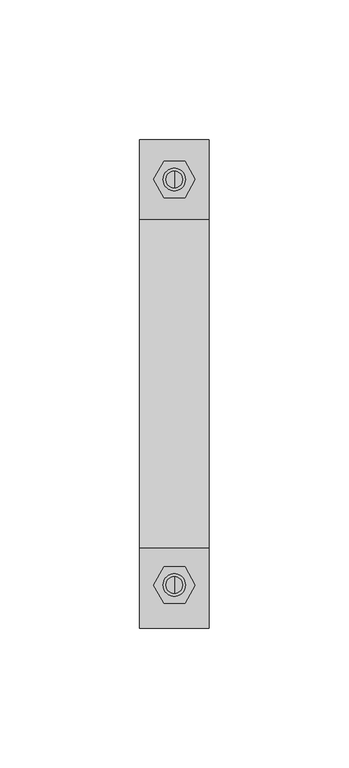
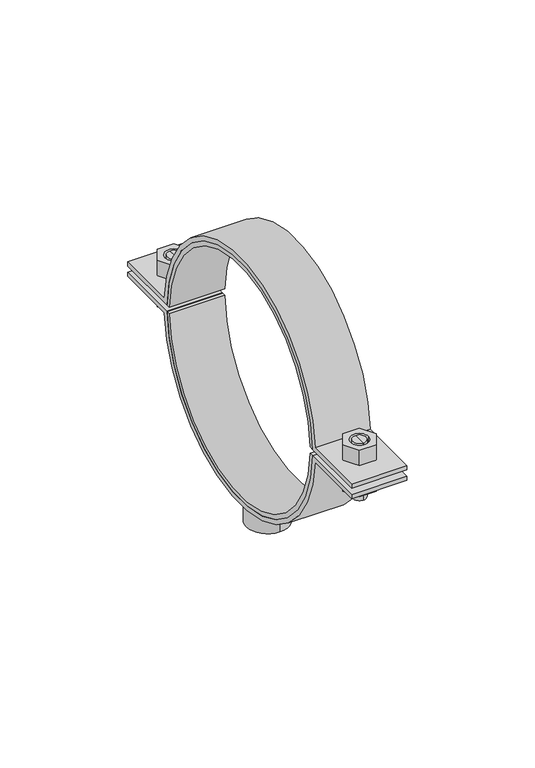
"""IFC4 building model written with IfcOpenShell, lengths in millimetres: valve geometry, Superfix DG2 Clamp Extra : Superfix DG2 Clamp Extra."""

from ifc_helpers import new_model, si_unit, point, frame, frame_2d, origin, origin_2d, place, context, project, spatial, polyline, circle_curve, trimmed, segment, composite_curve, outline, extrude, source, transform, mapped, element, save
from ifc_brep_helpers import plane_surface, cylinder_surface, advanced_brep


def valve_b5885081(model_context):
    return source(origin(), model_context, "Body", "SolidModel", [
        advanced_brep(
        [(0.0, 76.25, 333.9), (0.0, 70.25, 333.9), (0.0, 70.25, 348.5), (0.0, 76.25, 348.5), (0.0, 73.25, 333.9)],
        [
            (0, 1, circle_curve(frame((0.0, 73.25, 333.9), z_axis=(0.0, 0.0, 1.0), x_axis=(0.0, 1.0, 0.0)), 3.0)),
            (1, 2),
            (2, 3, circle_curve(frame((0.0, 73.25, 348.5), z_axis=(0.0, 0.0, -1.0), x_axis=(0.0, 1.0, 0.0)), 3.0)),
            (3, 0),
            (1, 0, circle_curve(frame((0.0, 73.25, 333.9), z_axis=(0.0, 0.0, 1.0), x_axis=(0.0, 1.0, 0.0)), 3.0)),
            (3, 2, circle_curve(frame((0.0, 73.25, 348.5), z_axis=(0.0, 0.0, -1.0), x_axis=(0.0, 1.0, 0.0)), 3.0)),
            (0, 4),
            (4, 1),
        ],
        [
            cylinder_surface(frame((0.0, 73.25, 348.2806094), z_axis=(0.0, 0.0, 1.0), x_axis=(0.0, 1.0, 0.0)), 3.0),
            plane_surface(frame((0.0, 73.25, 333.9), z_axis=(0.0, 0.0, -1.0), x_axis=(0.0, 1.0, 0.0))),
            plane_surface(frame((13.75, -87.5, 348.5), z_axis=(0.0, 0.0, 1.0), x_axis=(-1.0, 0.0, 0.0))),
        ],
        [
            (0, [[1, 2, 3, 4]]),
            (0, [[5, -4, 6, -2]]),
            (1, [[-1, 7, 8]]),
            (1, [[-5, -8, -7]]),
            (2, [[-3, -6]]),
        ],
    ),
        advanced_brep(
        [(0.0, 70.25, 361.1), (0.0, 76.25, 361.1), (0.0, 76.25, 351.5), (0.0, 70.25, 351.5), (0.0, 73.25, 361.1)],
        [
            (0, 1, circle_curve(frame((0.0, 73.25, 361.1), z_axis=(0.0, 0.0, -1.0), x_axis=(0.0, 1.0, 0.0)), 3.0)),
            (1, 2),
            (2, 3, circle_curve(frame((0.0, 73.25, 351.5), z_axis=(0.0, 0.0, 1.0), x_axis=(0.0, 1.0, 0.0)), 3.0)),
            (3, 0),
            (1, 0, circle_curve(frame((0.0, 73.25, 361.1), z_axis=(0.0, 0.0, -1.0), x_axis=(0.0, 1.0, 0.0)), 3.0)),
            (3, 2, circle_curve(frame((0.0, 73.25, 351.5), z_axis=(0.0, 0.0, 1.0), x_axis=(0.0, 1.0, 0.0)), 3.0)),
            (0, 4),
            (4, 1),
        ],
        [
            cylinder_surface(frame((0.0, 73.25, 348.2806094), z_axis=(0.0, 0.0, 1.0), x_axis=(0.0, 1.0, 0.0)), 3.0),
            plane_surface(frame((0.0, 73.25, 361.1), z_axis=(0.0, 0.0, 1.0), x_axis=(0.0, 1.0, 0.0))),
            plane_surface(frame((13.75, 87.5, 351.5), z_axis=(0.0, 0.0, -1.0), x_axis=(-1.0, 0.0, 0.0))),
        ],
        [
            (0, [[1, 2, 3, 4]]),
            (0, [[5, -4, 6, -2]]),
            (1, [[-1, 7, 8]]),
            (1, [[-5, -8, -7]]),
            (2, [[-3, -6]]),
        ],
    ),
        advanced_brep(
        [(0.0, -75.0, 361.1), (0.0, -69.0, 361.1), (0.0, -69.0, 351.5), (0.0, -75.0, 351.5), (0.0, -72.0, 361.1)],
        [
            (0, 1, circle_curve(frame((0.0, -72.0, 361.1), z_axis=(0.0, 0.0, -1.0), x_axis=(0.0, -1.0, 0.0)), 3.0)),
            (1, 2),
            (2, 3, circle_curve(frame((0.0, -72.0, 351.5), z_axis=(0.0, 0.0, 1.0), x_axis=(0.0, -1.0, 0.0)), 3.0)),
            (3, 0),
            (1, 0, circle_curve(frame((0.0, -72.0, 361.1), z_axis=(0.0, 0.0, -1.0), x_axis=(0.0, -1.0, 0.0)), 3.0)),
            (3, 2, circle_curve(frame((0.0, -72.0, 351.5), z_axis=(0.0, 0.0, 1.0), x_axis=(0.0, -1.0, 0.0)), 3.0)),
            (0, 4),
            (4, 1),
        ],
        [
            cylinder_surface(frame((0.0, -72.0, 348.2806094), z_axis=(0.0, 0.0, -1.0), x_axis=(0.0, -1.0, 0.0)), 3.0),
            plane_surface(frame((0.0, -72.0, 361.1), z_axis=(0.0, 0.0, 1.0), x_axis=(0.0, -1.0, 0.0))),
            plane_surface(frame((13.75, 87.5, 351.5), z_axis=(0.0, 0.0, -1.0), x_axis=(-1.0, 0.0, 0.0))),
        ],
        [
            (0, [[1, 2, 3, 4]]),
            (0, [[5, -4, 6, -2]]),
            (1, [[-1, 7, 8]]),
            (1, [[-5, -8, -7]]),
            (2, [[-3, -6]]),
        ],
    ),
        advanced_brep(
        [(0.0, -69.0, 333.9), (0.0, -75.0, 333.9), (0.0, -75.0, 348.5), (0.0, -69.0, 348.5), (0.0, -72.0, 333.9)],
        [
            (0, 1, circle_curve(frame((0.0, -72.0, 333.9), z_axis=(0.0, 0.0, 1.0), x_axis=(0.0, -1.0, 0.0)), 3.0)),
            (1, 2),
            (2, 3, circle_curve(frame((0.0, -72.0, 348.5), z_axis=(0.0, 0.0, -1.0), x_axis=(0.0, -1.0, 0.0)), 3.0)),
            (3, 0),
            (1, 0, circle_curve(frame((0.0, -72.0, 333.9), z_axis=(0.0, 0.0, 1.0), x_axis=(0.0, -1.0, 0.0)), 3.0)),
            (3, 2, circle_curve(frame((0.0, -72.0, 348.5), z_axis=(0.0, 0.0, -1.0), x_axis=(0.0, -1.0, 0.0)), 3.0)),
            (0, 4),
            (4, 1),
        ],
        [
            cylinder_surface(frame((0.0, -72.0, 348.2806094), z_axis=(0.0, 0.0, -1.0), x_axis=(0.0, -1.0, 0.0)), 3.0),
            plane_surface(frame((0.0, -72.0, 333.9), z_axis=(0.0, 0.0, -1.0), x_axis=(0.0, -1.0, 0.0))),
            plane_surface(frame((13.75, -87.5, 348.5), z_axis=(0.0, 0.0, 1.0), x_axis=(-1.0, 0.0, 0.0))),
        ],
        [
            (0, [[1, 2, 3, 4]]),
            (0, [[5, -4, 6, -2]]),
            (1, [[-1, 7, 8]]),
            (1, [[-5, -8, -7]]),
            (2, [[-3, -6]]),
        ],
    ),
        extrude(outline(composite_curve([segment(trimmed(circle_curve(frame_2d((0.0, 350.0)), 57.0), [point((-56.9802597, 348.5))], [point((56.9802597, 348.5))], True, "CARTESIAN"), True, "CONTINUOUS"), segment(polyline([(56.9802597, 348.5), (87.5, 348.5), (87.5, 346.5), (58.8960949, 346.5)]), True, "CONTINUOUS"), segment(trimmed(circle_curve(frame_2d((0.0, 350.0)), 59.0), [point((58.8960949, 346.5))], [point((-58.8960949, 346.5))], False, "CARTESIAN"), True, "CONTINUOUS"), segment(polyline([(-58.8960949, 346.5), (-87.5, 346.5), (-87.5, 348.5), (-56.9802597, 348.5)]), True, "CONTINUOUS")], self_intersect=False)), frame((-12.5, 0.0, 0.0), z_axis=(1.0, 0.0, 0.0), x_axis=(0.0, 1.0, 0.0)), (0.0, 0.0, 1.0), 25.0),
        extrude(outline(composite_curve([segment(trimmed(circle_curve(frame_2d((0.0, 350.0)), 57.0), [point((56.9802597, 351.5))], [point((-56.9802597, 351.5))], True, "CARTESIAN"), True, "CONTINUOUS"), segment(polyline([(-56.9802597, 351.5), (-87.5, 351.5), (-87.5, 353.5), (-58.8960949, 353.5)]), True, "CONTINUOUS"), segment(trimmed(circle_curve(frame_2d((0.0, 350.0)), 59.0), [point((-58.8960949, 353.5))], [point((58.8960949, 353.5))], False, "CARTESIAN"), True, "CONTINUOUS"), segment(polyline([(58.8960949, 353.5), (87.5, 353.5), (87.5, 351.5), (56.9802597, 351.5)]), True, "CONTINUOUS")], self_intersect=False)), frame((-12.5, 0.0, 0.0), z_axis=(1.0, 0.0, 0.0), x_axis=(0.0, 1.0, 0.0)), (0.0, 0.0, 1.0), 25.0),
        extrude(outline(polyline([(7.5055535, -72.0), (3.7527767, -78.5), (-3.7527767, -78.5), (-7.5055535, -72.0), (-3.7527767, -65.5), (3.7527767, -65.5), (7.5055535, -72.0)]), holes=[composite_curve([segment(trimmed(circle_curve(frame_2d((0.0, -72.0)), 4.0), [point((4.0, -72.0))], [point((-4.0, -72.0))], True, "CARTESIAN"), True, "CONTINUOUS"), segment(trimmed(circle_curve(frame_2d((0.0, -72.0)), 4.0), [point((-4.0, -72.0))], [point((4.0, -72.0))], True, "CARTESIAN"), True, "CONTINUOUS")], self_intersect=False)]), frame((0.0, 0.0, 353.5), z_axis=(0.0, 0.0, 1.0), x_axis=(1.0, 0.0, 0.0)), (0.0, 0.0, 1.0), 7.6),
        extrude(outline(polyline([(7.5055535, 73.25), (3.7527767, 66.75), (-3.7527767, 66.75), (-7.5055535, 73.25), (-3.7527767, 79.75), (3.7527767, 79.75), (7.5055535, 73.25)]), holes=[composite_curve([segment(trimmed(circle_curve(frame_2d((0.0, 73.25)), 4.0), [point((4.0, 73.25))], [point((-4.0, 73.25))], True, "CARTESIAN"), True, "CONTINUOUS"), segment(trimmed(circle_curve(frame_2d((0.0, 73.25)), 4.0), [point((-4.0, 73.25))], [point((4.0, 73.25))], True, "CARTESIAN"), True, "CONTINUOUS")], self_intersect=False)]), frame((0.0, 0.0, 353.5), z_axis=(0.0, 0.0, 1.0), x_axis=(1.0, 0.0, 0.0)), (0.0, 0.0, 1.0), 7.6),
        extrude(outline(polyline([(7.5055535, -72.0), (3.7527767, -78.5), (-3.7527767, -78.5), (-7.5055535, -72.0), (-3.7527767, -65.5), (3.7527767, -65.5), (7.5055535, -72.0)]), holes=[composite_curve([segment(trimmed(circle_curve(frame_2d((0.0, -72.0)), 4.0), [point((4.0, -72.0))], [point((-4.0, -72.0))], True, "CARTESIAN"), True, "CONTINUOUS"), segment(trimmed(circle_curve(frame_2d((0.0, -72.0)), 4.0), [point((-4.0, -72.0))], [point((4.0, -72.0))], True, "CARTESIAN"), True, "CONTINUOUS")], self_intersect=False)]), frame((0.0, 0.0, 338.9), z_axis=(0.0, 0.0, 1.0), x_axis=(1.0, 0.0, 0.0)), (0.0, 0.0, 1.0), 7.6),
        extrude(outline(polyline([(7.5055535, 73.25), (3.7527767, 66.75), (-3.7527767, 66.75), (-7.5055535, 73.25), (-3.7527767, 79.75), (3.7527767, 79.75), (7.5055535, 73.25)]), holes=[composite_curve([segment(trimmed(circle_curve(frame_2d((0.0, 73.25)), 4.0), [point((4.0, 73.25))], [point((-4.0, 73.25))], True, "CARTESIAN"), True, "CONTINUOUS"), segment(trimmed(circle_curve(frame_2d((0.0, 73.25)), 4.0), [point((-4.0, 73.25))], [point((4.0, 73.25))], True, "CARTESIAN"), True, "CONTINUOUS")], self_intersect=False)]), frame((0.0, 0.0, 338.9), z_axis=(0.0, 0.0, 1.0), x_axis=(1.0, 0.0, 0.0)), (0.0, 0.0, 1.0), 7.6),
        extrude(outline(composite_curve([segment(trimmed(circle_curve(origin_2d(), 9.5), [point((0.0, 9.5))], [point((0.0, -9.5))], False, "CARTESIAN"), True, "CONTINUOUS"), segment(trimmed(circle_curve(origin_2d(), 9.5), [point((0.0, -9.5))], [point((0.0, 9.5))], False, "CARTESIAN"), True, "CONTINUOUS")], self_intersect=False), holes=[composite_curve([segment(trimmed(circle_curve(origin_2d(), 6.0), [point((0.0, 6.0))], [point((0.0, -6.0))], True, "CARTESIAN"), True, "CONTINUOUS"), segment(trimmed(circle_curve(origin_2d(), 6.0), [point((0.0, -6.0))], [point((0.0, 6.0))], True, "CARTESIAN"), True, "CONTINUOUS")], self_intersect=False)]), frame((0.0, 0.0, 279.0), z_axis=(0.0, 0.0, 1.0), x_axis=(1.0, 0.0, 0.0)), (0.0, 0.0, 1.0), 14.0),
        extrude(outline(composite_curve([segment(trimmed(circle_curve(frame_2d((0.0, 350.0)), 55.0), [point((54.9795416, 351.5))], [point((-54.9795416, 351.5))], True, "CARTESIAN"), True, "CONTINUOUS"), segment(polyline([(-54.9795416, 351.5), (-56.9802597, 351.5)]), True, "CONTINUOUS"), segment(trimmed(circle_curve(frame_2d((0.0, 350.0)), 57.0), [point((-56.9802597, 351.5))], [point((56.9802597, 351.5))], False, "CARTESIAN"), True, "CONTINUOUS"), segment(polyline([(56.9802597, 351.5), (54.9795416, 351.5)]), True, "CONTINUOUS")], self_intersect=False)), frame((-12.5, 0.0, 0.0), z_axis=(1.0, 0.0, 0.0), x_axis=(0.0, 1.0, 0.0)), (0.0, 0.0, 1.0), 25.0),
        extrude(outline(composite_curve([segment(polyline([(54.9795416, 348.5), (56.9802597, 348.5)]), True, "CONTINUOUS"), segment(trimmed(circle_curve(frame_2d((0.0, 350.0)), 57.0), [point((56.9802597, 348.5))], [point((-56.9802597, 348.5))], False, "CARTESIAN"), True, "CONTINUOUS"), segment(polyline([(-56.9802597, 348.5), (-54.9795416, 348.5)]), True, "CONTINUOUS"), segment(trimmed(circle_curve(frame_2d((0.0, 350.0)), 55.0), [point((-54.9795416, 348.5))], [point((54.9795416, 348.5))], True, "CARTESIAN"), True, "CONTINUOUS")], self_intersect=False)), frame((-12.5, 0.0, 0.0), z_axis=(1.0, 0.0, 0.0), x_axis=(0.0, 1.0, 0.0)), (0.0, 0.0, 1.0), 25.0),
    ])


if __name__ == "__main__":
    model = new_model("IFC4")
    model_context = context("Model", 3, world=origin())
    ifc_project = project(units=[si_unit("LENGTHUNIT", "METRE", prefix="MILLI")], contexts=[model_context])
    site = spatial("IfcSite", under=ifc_project)
    building = spatial("IfcBuilding", under=site)
    placement = place(None, origin())
    valve_shape = valve_b5885081(model_context)
    element("IfcValve", 1, ObjectType="Superfix DG2 Clamp Extra : Superfix DG2 Clamp Extra", at=placement, inside=building, context=model_context, shape_type="MappedRepresentation", body=[
        mapped(valve_shape, transform((0.0, 0.0, 0.0), x_axis=(1.0, 0.0, 0.0), y_axis=(0.0, 1.0, 0.0), z_axis=(0.0, 0.0, 1.0))),
    ])
    save(model, "model.ifc")
